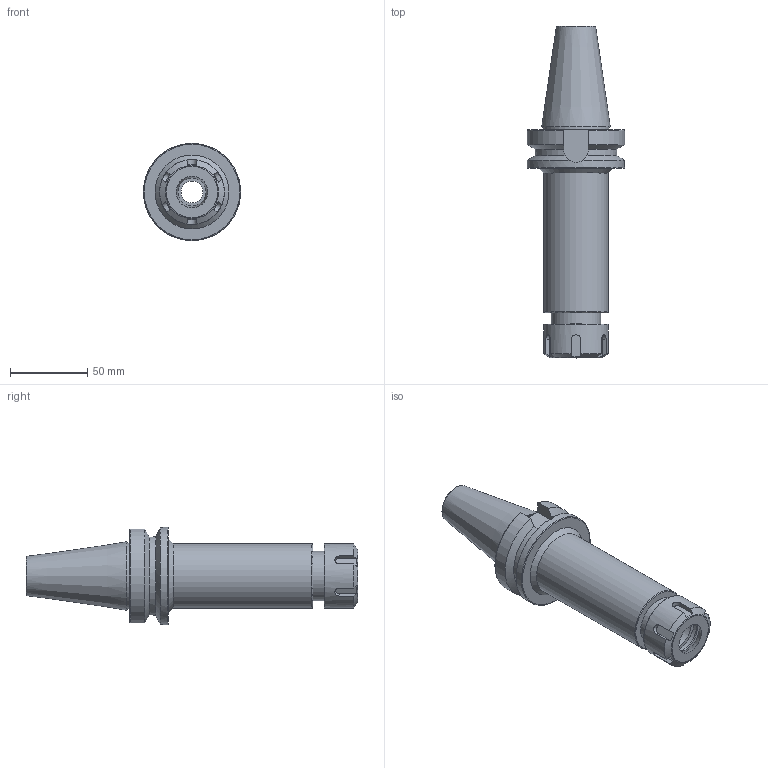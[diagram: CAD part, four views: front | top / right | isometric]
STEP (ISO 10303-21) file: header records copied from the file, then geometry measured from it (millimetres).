
FILE_DESCRIPTION(/* description */ (''),/* implementation_level */ '2;1');
FILE_NAME(/* name */ 'BT40-ER25-150.stp',/* time_stamp */ '2025-06-26T15:38:59+03:00',/* author */ ('User'),/* organization */ (''),/* preprocessor_version */ 'ST-DEVELOPER v19.2',/* originating_system */ 'Autodesk Inventor 2024',/* authorisation */ '');
FILE_SCHEMA (('AUTOMOTIVE_DESIGN { 1 0 10303 214 3 1 1 }'));
Length unit declared in the file: millimetre
Products named in the file (3): BT40-ER25-100; BT40-FMB60-75; ER25-M
Assembly tree (2 placements, depth 2):
  BT40-ER25-100
    BT40-FMB60-75
    ER25-M
Bounding box: 63 x 215.4 x 63 mm (x, y, z)
Volume: 251718.2 mm3; surface area: 49602 mm2
Topology: 2 solids, 2 shells, 80 faces, 207 edges, 140 vertices
Faces by surface type: plane 37, cylinder 23, cone 12, torus 8
Full cylindrical faces by diameter (mm): 14.2 x1, 17 x1, 18.254 x1, 25.6 x1, 30.6 x2, 32 x1, 42 x2, 43 x1, 63 x1
Entity records: 2763 total; most frequent: CARTESIAN_POINT 682, ORIENTED_EDGE 414, DIRECTION 405, EDGE_CURVE 207, AXIS2_PLACEMENT_3D 164, VERTEX_POINT 140, EDGE_LOOP 93, FACE_OUTER_BOUND 80
